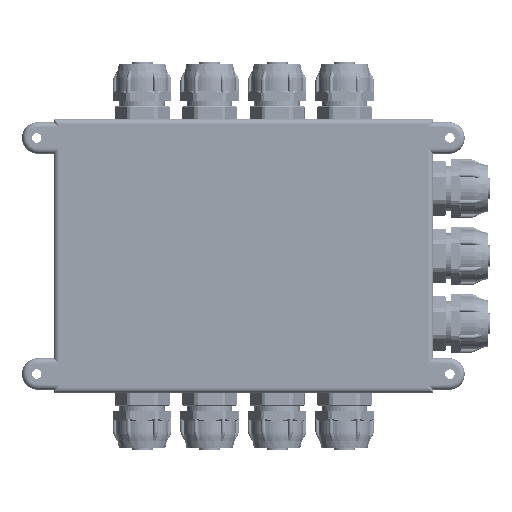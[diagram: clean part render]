
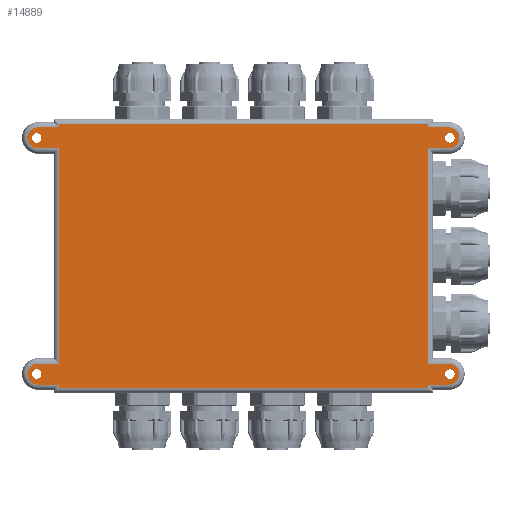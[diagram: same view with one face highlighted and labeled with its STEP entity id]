
A CAD part, front view. The second image highlights one B-rep face of the part: STEP entity #14889.
In plain terms, the highlighted planar face has unit normal (0, -1, 0).
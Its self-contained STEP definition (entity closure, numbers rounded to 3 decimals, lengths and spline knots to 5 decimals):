
#14889=ADVANCED_FACE('109:176',(#26859,#26860,#26861,#26862,#26863),#26864,.F.);
#26859=FACE_OUTER_BOUND('',#44135,.T.);
#26860=FACE_BOUND('',#44136,.T.);
#26861=FACE_BOUND('',#44137,.T.);
#26862=FACE_BOUND('',#44138,.T.);
#26863=FACE_BOUND('',#44139,.T.);
#26864=PLANE('',#44140);
#44135=EDGE_LOOP('',(#69018,#69019,#69020,#69021,#69022,#69023,#69024,#69025,#69026,#69027,#69028,#69029,#69030,#69031,#69032,#69033,#69034,#69035,#69036,#69037));
#44136=EDGE_LOOP('',(#69038,#69039));
#44137=EDGE_LOOP('',(#69040,#69041));
#44138=EDGE_LOOP('',(#69042,#69043));
#44139=EDGE_LOOP('',(#69044,#69045));
#44140=AXIS2_PLACEMENT_3D('',#69046,#69047,#69048);
#69018=ORIENTED_EDGE('',*,*,#82959,.F.);
#69019=ORIENTED_EDGE('',*,*,#82956,.F.);
#69020=ORIENTED_EDGE('',*,*,#83131,.T.);
#69021=ORIENTED_EDGE('',*,*,#83113,.F.);
#69022=ORIENTED_EDGE('',*,*,#82948,.F.);
#69023=ORIENTED_EDGE('',*,*,#83132,.T.);
#69024=ORIENTED_EDGE('',*,*,#83133,.T.);
#69025=ORIENTED_EDGE('',*,*,#83107,.F.);
#69026=ORIENTED_EDGE('',*,*,#82905,.F.);
#69027=ORIENTED_EDGE('',*,*,#82942,.F.);
#69028=ORIENTED_EDGE('',*,*,#82939,.F.);
#69029=ORIENTED_EDGE('',*,*,#82936,.F.);
#69030=ORIENTED_EDGE('',*,*,#83134,.T.);
#69031=ORIENTED_EDGE('',*,*,#83119,.F.);
#69032=ORIENTED_EDGE('',*,*,#82928,.F.);
#69033=ORIENTED_EDGE('',*,*,#83135,.T.);
#69034=ORIENTED_EDGE('',*,*,#83136,.T.);
#69035=ORIENTED_EDGE('',*,*,#83125,.F.);
#69036=ORIENTED_EDGE('',*,*,#82917,.F.);
#69037=ORIENTED_EDGE('',*,*,#83137,.T.);
#69038=ORIENTED_EDGE('',*,*,#83138,.T.);
#69039=ORIENTED_EDGE('',*,*,#82896,.T.);
#69040=ORIENTED_EDGE('',*,*,#83139,.T.);
#69041=ORIENTED_EDGE('',*,*,#82892,.T.);
#69042=ORIENTED_EDGE('',*,*,#83140,.T.);
#69043=ORIENTED_EDGE('',*,*,#82888,.T.);
#69044=ORIENTED_EDGE('',*,*,#83141,.T.);
#69045=ORIENTED_EDGE('',*,*,#82900,.T.);
#69046=CARTESIAN_POINT('',(0.0,0.0,0.0));
#69047=DIRECTION('',(0.0,1.0,0.0));
#69048=DIRECTION('',(0.0,0.0,1.0));
#82888=EDGE_CURVE('136:63',#101080,#101077,#101081,.T.);
#82892=EDGE_CURVE('136:690',#101088,#101085,#101089,.T.);
#82896=EDGE_CURVE('136:1299',#101096,#101093,#101097,.T.);
#82900=EDGE_CURVE('136:1914',#101104,#101101,#101105,.T.);
#82905=EDGE_CURVE('139:2306',#101112,#101114,#101115,.T.);
#82917=EDGE_CURVE('139:2264',#101135,#101137,#101138,.T.);
#82928=EDGE_CURVE('139:2282',#101155,#101157,#101158,.T.);
#82936=EDGE_CURVE('139:6897',#101170,#101172,#101173,.T.);
#82939=EDGE_CURVE('139:6990',#101172,#101177,#101178,.T.);
#82942=EDGE_CURVE('139:2288',#101177,#101112,#101181,.T.);
#82948=EDGE_CURVE('139:7291',#101189,#101191,#101192,.T.);
#82956=EDGE_CURVE('139:2216',#101204,#101206,#101207,.T.);
#82959=EDGE_CURVE('139:2210',#101206,#101210,#101211,.T.);
#83107=EDGE_CURVE('139:2300',#101114,#101457,#101458,.T.);
#83113=EDGE_CURVE('139:7285',#101191,#101466,#101467,.T.);
#83119=EDGE_CURVE('139:2276',#101157,#101475,#101476,.T.);
#83125=EDGE_CURVE('139:2258',#101137,#101484,#101485,.T.);
#83131=EDGE_CURVE('139:2312',#101204,#101466,#101492,.T.);
#83132=EDGE_CURVE('139:2222',#101189,#101493,#101494,.T.);
#83133=EDGE_CURVE('139:2294',#101493,#101457,#101495,.T.);
#83134=EDGE_CURVE('139:2270',#101170,#101475,#101496,.T.);
#83135=EDGE_CURVE('139:2240',#101155,#101497,#101498,.T.);
#83136=EDGE_CURVE('139:2252',#101497,#101484,#101499,.T.);
#83137=EDGE_CURVE('139:2246',#101135,#101210,#101500,.T.);
#83138=EDGE_CURVE('136:1299',#101093,#101096,#101501,.T.);
#83139=EDGE_CURVE('136:690',#101085,#101088,#101502,.T.);
#83140=EDGE_CURVE('136:63',#101077,#101080,#101503,.T.);
#83141=EDGE_CURVE('136:1914',#101101,#101104,#101504,.T.);
#101077=VERTEX_POINT('',#121803);
#101080=VERTEX_POINT('',#121807);
#101081=CIRCLE('',#121808,0.00225);
#101085=VERTEX_POINT('',#121813);
#101088=VERTEX_POINT('',#121817);
#101089=CIRCLE('',#121818,0.00225);
#101093=VERTEX_POINT('',#121823);
#101096=VERTEX_POINT('',#121827);
#101097=CIRCLE('',#121828,0.00225);
#101101=VERTEX_POINT('',#121833);
#101104=VERTEX_POINT('',#121837);
#101105=CIRCLE('',#121838,0.00225);
#101112=VERTEX_POINT('',#121847);
#101114=VERTEX_POINT('',#121849);
#101115=LINE('',#121850,#121851);
#101135=VERTEX_POINT('',#121876);
#101137=VERTEX_POINT('',#121878);
#101138=LINE('',#121879,#121880);
#101155=VERTEX_POINT('',#121902);
#101157=VERTEX_POINT('',#121904);
#101158=LINE('',#121905,#121906);
#101170=VERTEX_POINT('',#121921);
#101172=VERTEX_POINT('',#121923);
#101173=LINE('',#121924,#121925);
#101177=VERTEX_POINT('',#121930);
#101178=LINE('',#121931,#121932);
#101181=LINE('',#121936,#121937);
#101189=VERTEX_POINT('',#121948);
#101191=VERTEX_POINT('',#121950);
#101192=LINE('',#121951,#121952);
#101204=VERTEX_POINT('',#121967);
#101206=VERTEX_POINT('',#121969);
#101207=LINE('',#121970,#121971);
#101210=VERTEX_POINT('',#121975);
#101211=LINE('',#121976,#121977);
#101457=VERTEX_POINT('',#122283);
#101458=CIRCLE('',#122284,0.005);
#101466=VERTEX_POINT('',#122293);
#101467=CIRCLE('',#122294,0.005);
#101475=VERTEX_POINT('',#122303);
#101476=CIRCLE('',#122304,0.005);
#101484=VERTEX_POINT('',#122313);
#101485=CIRCLE('',#122314,0.005);
#101492=LINE('',#122322,#122323);
#101493=VERTEX_POINT('',#122324);
#101494=LINE('',#122325,#122326);
#101495=LINE('',#122327,#122328);
#101496=LINE('',#122329,#122330);
#101497=VERTEX_POINT('',#122331);
#101498=LINE('',#122332,#122333);
#101499=LINE('',#122334,#122335);
#101500=LINE('',#122336,#122337);
#101501=CIRCLE('',#122338,0.00225);
#101502=CIRCLE('',#122339,0.00225);
#101503=CIRCLE('',#122340,0.00225);
#101504=CIRCLE('',#122341,0.00225);
#121803=CARTESIAN_POINT('',(0.10025,0.0,0.056));
#121807=CARTESIAN_POINT('',(0.09575,0.0,0.056));
#121808=AXIS2_PLACEMENT_3D('',#132926,#132927,#132928);
#121813=CARTESIAN_POINT('',(0.10025,0.0,-0.056));
#121817=CARTESIAN_POINT('',(0.09575,0.0,-0.056));
#121818=AXIS2_PLACEMENT_3D('',#132934,#132935,#132936);
#121823=CARTESIAN_POINT('',(-0.10025,0.0,0.056));
#121827=CARTESIAN_POINT('',(-0.09575,0.0,0.056));
#121828=AXIS2_PLACEMENT_3D('',#132942,#132943,#132944);
#121833=CARTESIAN_POINT('',(-0.10025,0.0,-0.056));
#121837=CARTESIAN_POINT('',(-0.09575,0.0,-0.056));
#121838=AXIS2_PLACEMENT_3D('',#132950,#132951,#132952);
#121847=CARTESIAN_POINT('',(-0.0875,0.0,-0.061));
#121849=CARTESIAN_POINT('',(-0.0975,0.0,-0.061));
#121850=CARTESIAN_POINT('',(-0.04712,0.0,-0.061));
#121851=VECTOR('',#132961,1.0);
#121876=CARTESIAN_POINT('',(0.0875,0.0,0.061));
#121878=CARTESIAN_POINT('',(0.0975,0.0,0.061));
#121879=CARTESIAN_POINT('',(0.04713,0.0,0.061));
#121880=VECTOR('',#132985,1.0);
#121902=CARTESIAN_POINT('',(0.0875,0.0,-0.051));
#121904=CARTESIAN_POINT('',(0.0975,0.0,-0.051));
#121905=CARTESIAN_POINT('',(0.04713,0.0,-0.051));
#121906=VECTOR('',#133006,1.0);
#121921=CARTESIAN_POINT('',(0.0875,0.0,-0.061));
#121923=CARTESIAN_POINT('',(0.0875,0.0,-0.0625));
#121924=CARTESIAN_POINT('',(0.0875,0.0,0.0));
#121925=VECTOR('',#133022,1.0);
#121930=CARTESIAN_POINT('',(-0.0875,0.0,-0.0625));
#121931=CARTESIAN_POINT('',(0.0,0.0,-0.0625));
#121932=VECTOR('',#133027,1.0);
#121936=CARTESIAN_POINT('',(-0.0875,0.0,0.0));
#121937=VECTOR('',#133032,1.0);
#121948=CARTESIAN_POINT('',(-0.0875,0.0,0.051));
#121950=CARTESIAN_POINT('',(-0.0975,0.0,0.051));
#121951=CARTESIAN_POINT('',(-0.04713,0.0,0.051));
#121952=VECTOR('',#133042,1.0);
#121967=CARTESIAN_POINT('',(-0.0875,0.0,0.061));
#121969=CARTESIAN_POINT('',(-0.0875,0.0,0.0625));
#121970=CARTESIAN_POINT('',(-0.0875,0.0,0.0));
#121971=VECTOR('',#133058,1.0);
#121975=CARTESIAN_POINT('',(0.0875,0.0,0.0625));
#121976=CARTESIAN_POINT('',(0.0,0.0,0.0625));
#121977=VECTOR('',#133063,1.0);
#122283=CARTESIAN_POINT('',(-0.0975,0.0,-0.051));
#122284=AXIS2_PLACEMENT_3D('',#133385,#133386,#133387);
#122293=CARTESIAN_POINT('',(-0.0975,0.0,0.061));
#122294=AXIS2_PLACEMENT_3D('',#133401,#133402,#133403);
#122303=CARTESIAN_POINT('',(0.0975,0.0,-0.061));
#122304=AXIS2_PLACEMENT_3D('',#133417,#133418,#133419);
#122313=CARTESIAN_POINT('',(0.0975,0.0,0.051));
#122314=AXIS2_PLACEMENT_3D('',#133433,#133434,#133435);
#122322=CARTESIAN_POINT('',(-0.04713,0.0,0.061));
#122323=VECTOR('',#133449,1.0);
#122324=CARTESIAN_POINT('',(-0.0875,0.0,-0.051));
#122325=CARTESIAN_POINT('',(-0.0875,0.0,0.0));
#122326=VECTOR('',#133450,1.0);
#122327=CARTESIAN_POINT('',(-0.04712,0.0,-0.051));
#122328=VECTOR('',#133451,1.0);
#122329=CARTESIAN_POINT('',(0.04713,0.0,-0.061));
#122330=VECTOR('',#133452,1.0);
#122331=CARTESIAN_POINT('',(0.0875,0.0,0.051));
#122332=CARTESIAN_POINT('',(0.0875,0.0,0.0));
#122333=VECTOR('',#133453,1.0);
#122334=CARTESIAN_POINT('',(0.04713,0.0,0.051));
#122335=VECTOR('',#133454,1.0);
#122336=CARTESIAN_POINT('',(0.0875,0.0,0.0));
#122337=VECTOR('',#133455,1.0);
#122338=AXIS2_PLACEMENT_3D('',#133456,#133457,#133458);
#122339=AXIS2_PLACEMENT_3D('',#133459,#133460,#133461);
#122340=AXIS2_PLACEMENT_3D('',#133462,#133463,#133464);
#122341=AXIS2_PLACEMENT_3D('',#133465,#133466,#133467);
#132926=CARTESIAN_POINT('',(0.098,0.0,0.056));
#132927=DIRECTION('',(-0.0,1.0,0.0));
#132928=DIRECTION('',(1.0,0.0,0.0));
#132934=CARTESIAN_POINT('',(0.098,0.0,-0.056));
#132935=DIRECTION('',(-0.0,1.0,0.0));
#132936=DIRECTION('',(1.0,0.0,0.0));
#132942=CARTESIAN_POINT('',(-0.098,0.0,0.056));
#132943=DIRECTION('',(0.0,1.0,0.0));
#132944=DIRECTION('',(-1.0,0.0,0.));
#132950=CARTESIAN_POINT('',(-0.098,0.0,-0.056));
#132951=DIRECTION('',(0.0,1.0,0.0));
#132952=DIRECTION('',(-1.0,0.0,0.));
#132961=DIRECTION('',(-1.0,0.0,0.));
#132985=DIRECTION('',(1.0,0.0,0.0));
#133006=DIRECTION('',(1.0,0.0,0.0));
#133022=DIRECTION('',(0.0,0.0,-1.0));
#133027=DIRECTION('',(-1.0,0.0,0.0));
#133032=DIRECTION('',(0.0,0.0,1.0));
#133042=DIRECTION('',(-1.0,0.0,0.));
#133058=DIRECTION('',(0.0,0.0,1.0));
#133063=DIRECTION('',(1.0,0.0,0.0));
#133385=CARTESIAN_POINT('',(-0.0975,0.0,-0.056));
#133386=DIRECTION('',(0.0,1.0,0.0));
#133387=DIRECTION('',(-1.0,0.0,0.));
#133401=CARTESIAN_POINT('',(-0.0975,0.0,0.056));
#133402=DIRECTION('',(0.0,1.0,0.0));
#133403=DIRECTION('',(-1.0,0.0,0.));
#133417=CARTESIAN_POINT('',(0.0975,0.0,-0.056));
#133418=DIRECTION('',(-0.0,1.0,0.0));
#133419=DIRECTION('',(1.0,0.0,0.0));
#133433=CARTESIAN_POINT('',(0.0975,0.0,0.056));
#133434=DIRECTION('',(-0.0,1.0,0.0));
#133435=DIRECTION('',(1.0,0.0,0.0));
#133449=DIRECTION('',(-1.0,0.0,0.));
#133450=DIRECTION('',(0.0,0.0,-1.0));
#133451=DIRECTION('',(-1.0,0.0,0.));
#133452=DIRECTION('',(1.0,-0.0,0.0));
#133453=DIRECTION('',(0.0,0.0,1.0));
#133454=DIRECTION('',(1.0,-0.0,0.0));
#133455=DIRECTION('',(0.0,0.0,1.0));
#133456=CARTESIAN_POINT('',(-0.098,0.0,0.056));
#133457=DIRECTION('',(0.0,1.0,0.0));
#133458=DIRECTION('',(-1.0,0.0,0.));
#133459=CARTESIAN_POINT('',(0.098,0.0,-0.056));
#133460=DIRECTION('',(-0.0,1.0,0.0));
#133461=DIRECTION('',(1.0,0.0,0.0));
#133462=CARTESIAN_POINT('',(0.098,0.0,0.056));
#133463=DIRECTION('',(-0.0,1.0,0.0));
#133464=DIRECTION('',(1.0,0.0,0.0));
#133465=CARTESIAN_POINT('',(-0.098,0.0,-0.056));
#133466=DIRECTION('',(0.0,1.0,0.0));
#133467=DIRECTION('',(-1.0,0.0,0.));
